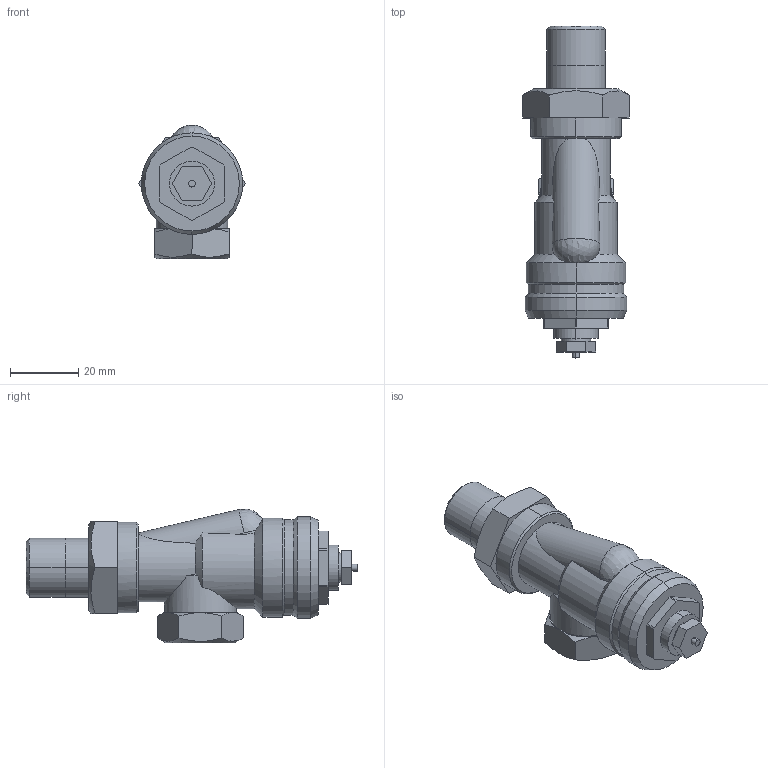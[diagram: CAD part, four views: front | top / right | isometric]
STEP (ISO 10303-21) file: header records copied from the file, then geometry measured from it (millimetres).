
FILE_DESCRIPTION((''),'2;1');
FILE_NAME('000030.stp','2006-10-18T16:47:40',(''),(''),'Mechanical Desktop 2006','Mechanical Desktop 2006',', , ');
FILE_SCHEMA(('AUTOMOTIVE_DESIGN { 1 2 10303 214 0 1 1 1 }'));
Length unit declared in the file: millimetre
Products named in the file (1): 000030
Bounding box: 31.18 x 97.1 x 39.1 mm (x, y, z)
Volume: 40703.3 mm3; surface area: 13922.8 mm2
Topology: 10 solids, 10 shells, 115 faces, 260 edges, 165 vertices
Faces by surface type: plane 55, cylinder 33, cone 26, sphere 1
Entity records: 3394 total; most frequent: CARTESIAN_POINT 820, DIRECTION 521, ORIENTED_EDGE 516, EDGE_CURVE 258, AXIS2_PLACEMENT_3D 200, VERTEX_POINT 165, VECTOR 121, LINE 121
